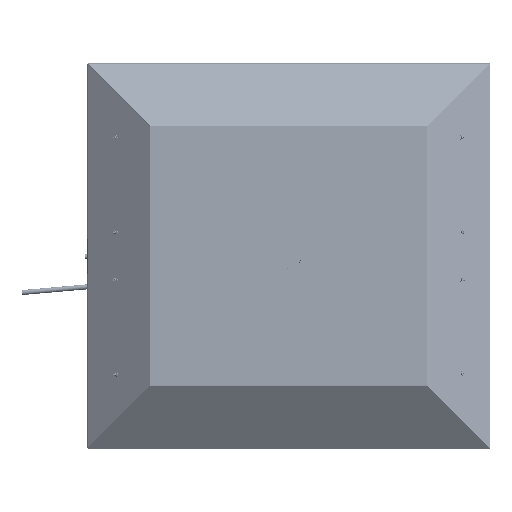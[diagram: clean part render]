
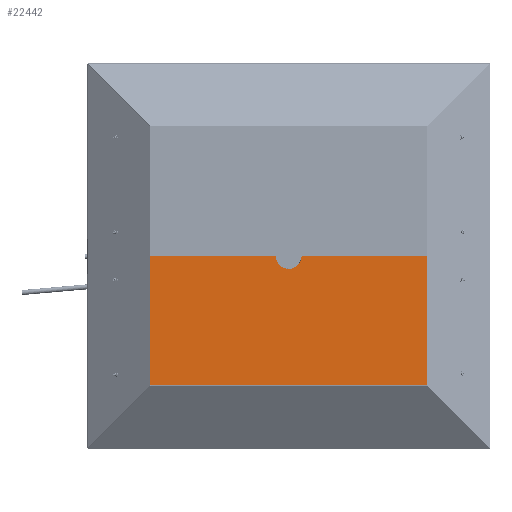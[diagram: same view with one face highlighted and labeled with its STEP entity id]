
A CAD part, top view. The second image highlights one B-rep face of the part: STEP entity #22442.
In plain terms, the highlighted planar face has unit normal (0, 0, 1) as drawn and (0, 1, 0) by its records, which use the part's own axes.
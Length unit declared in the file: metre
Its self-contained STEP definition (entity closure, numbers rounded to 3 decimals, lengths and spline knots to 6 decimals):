
#22442=ADVANCED_FACE('0:60298',(#41339),#41340,.T.);
#41339=FACE_OUTER_BOUND('',#75241,.T.);
#41340=PLANE('',#75242);
#75241=EDGE_LOOP('',(#121568,#121569,#121570,#121571,#121572,#121573,#121574,#121575,#121576,#121577,#121578));
#75242=AXIS2_PLACEMENT_3D('',#121579,#121580,#121581);
#121568=ORIENTED_EDGE('',*,*,#153343,.T.);
#121569=ORIENTED_EDGE('',*,*,#153347,.T.);
#121570=ORIENTED_EDGE('',*,*,#153339,.T.);
#121571=ORIENTED_EDGE('',*,*,#153366,.T.);
#121572=ORIENTED_EDGE('',*,*,#153367,.T.);
#121573=ORIENTED_EDGE('',*,*,#153368,.T.);
#121574=ORIENTED_EDGE('',*,*,#153369,.T.);
#121575=ORIENTED_EDGE('',*,*,#153370,.T.);
#121576=ORIENTED_EDGE('',*,*,#153371,.T.);
#121577=ORIENTED_EDGE('',*,*,#153372,.T.);
#121578=ORIENTED_EDGE('',*,*,#153356,.T.);
#121579=CARTESIAN_POINT('',(0.000124,0.258,-0.257069));
#121580=DIRECTION('',(-0.0,1.0,0.0));
#121581=DIRECTION('',(1.0,0.0,0.0));
#153339=EDGE_CURVE('0:60504',#192278,#192296,#192298,.F.);
#153343=EDGE_CURVE('0:60516',#192304,#192301,#192305,.T.);
#153347=EDGE_CURVE('0:60528',#192301,#192278,#192310,.T.);
#153356=EDGE_CURVE('0:60555',#192326,#192304,#192327,.F.);
#153366=EDGE_CURVE('0:60585',#192296,#192345,#192346,.F.);
#153367=EDGE_CURVE('0:60588',#192345,#192347,#192348,.T.);
#153368=EDGE_CURVE('0:60591',#192347,#192349,#192350,.T.);
#153369=EDGE_CURVE('0:60594',#192349,#192351,#192352,.F.);
#153370=EDGE_CURVE('0:60597',#192351,#192353,#192354,.T.);
#153371=EDGE_CURVE('0:60600',#192353,#192355,#192356,.T.);
#153372=EDGE_CURVE('0:60603',#192355,#192326,#192357,.F.);
#192278=VERTEX_POINT('',#240472);
#192296=VERTEX_POINT('',#240496);
#192298=LINE('',#240498,#240499);
#192301=VERTEX_POINT('',#240504);
#192304=VERTEX_POINT('',#240508);
#192305=CIRCLE('',#240509,0.0515);
#192310=CIRCLE('',#240515,0.0515);
#192326=VERTEX_POINT('',#240539);
#192327=LINE('',#240540,#240541);
#192345=VERTEX_POINT('',#240564);
#192346=LINE('',#240565,#240566);
#192347=VERTEX_POINT('',#240567);
#192348=LINE('',#240568,#240569);
#192349=VERTEX_POINT('',#240570);
#192350=LINE('',#240571,#240572);
#192351=VERTEX_POINT('',#240573);
#192352=LINE('',#240574,#240575);
#192353=VERTEX_POINT('',#240576);
#192354=LINE('',#240577,#240578);
#192355=VERTEX_POINT('',#240579);
#192356=LINE('',#240580,#240581);
#192357=LINE('',#240582,#240583);
#240472=CARTESIAN_POINT('',(-2.095375,0.258,0.01525));
#240496=CARTESIAN_POINT('',(-1.597335,0.258,0.01525));
#240498=CARTESIAN_POINT('',(-0.923376,0.258,0.01525));
#240499=VECTOR('',#273977,0.001);
#240504=CARTESIAN_POINT('',(-2.146876,0.258,-0.03625));
#240508=CARTESIAN_POINT('',(-2.198376,0.258,0.01525));
#240509=AXIS2_PLACEMENT_3D('',#273981,#273982,#273983);
#240515=AXIS2_PLACEMENT_3D('',#273991,#273992,#273993);
#240539=CARTESIAN_POINT('',(-2.696417,0.258,0.01525));
#240540=CARTESIAN_POINT('',(-1.223376,0.258,0.01525));
#240541=VECTOR('',#274002,0.001);
#240564=CARTESIAN_POINT('',(-1.597335,0.258,-0.498916));
#240565=CARTESIAN_POINT('',(-1.597335,0.258,-0.253201));
#240566=VECTOR('',#274020,0.001);
#240567=CARTESIAN_POINT('',(-1.59771,0.258,-0.498916));
#240568=CARTESIAN_POINT('',(-0.798376,0.258,-0.498916));
#240569=VECTOR('',#274021,0.001);
#240570=CARTESIAN_POINT('',(-1.59771,0.258,-0.499291));
#240571=CARTESIAN_POINT('',(-1.59771,0.258,-0.377993));
#240572=VECTOR('',#274022,0.001);
#240573=CARTESIAN_POINT('',(-2.696042,0.258,-0.499291));
#240574=CARTESIAN_POINT('',(-1.073376,0.258,-0.499291));
#240575=VECTOR('',#274023,0.001);
#240576=CARTESIAN_POINT('',(-2.696042,0.258,-0.498916));
#240577=CARTESIAN_POINT('',(-2.696042,0.258,-0.37841));
#240578=VECTOR('',#274024,0.001);
#240579=CARTESIAN_POINT('',(-2.696417,0.258,-0.498916));
#240580=CARTESIAN_POINT('',(-1.347959,0.258,-0.498916));
#240581=VECTOR('',#274025,0.001);
#240582=CARTESIAN_POINT('',(-2.696417,0.258,-0.253201));
#240583=VECTOR('',#274026,0.001);
#273977=DIRECTION('',(-1.0,0.0,0.0));
#273981=CARTESIAN_POINT('',(-2.146876,0.258,0.01525));
#273982=DIRECTION('',(0.0,-1.0,0.0));
#273983=DIRECTION('',(1.0,0.0,0.));
#273991=CARTESIAN_POINT('',(-2.146875,0.258,0.01525));
#273992=DIRECTION('',(-0.0,-1.0,-0.0));
#273993=DIRECTION('',(-1.0,0.0,0.0));
#274002=DIRECTION('',(-1.0,0.0,0.0));
#274020=DIRECTION('',(0.0,0.0,1.0));
#274021=DIRECTION('',(-1.0,0.0,0.0));
#274022=DIRECTION('',(0.0,0.0,-1.0));
#274023=DIRECTION('',(1.0,-0.0,0.0));
#274024=DIRECTION('',(-0.0,0.0,1.0));
#274025=DIRECTION('',(-1.0,0.0,0.0));
#274026=DIRECTION('',(0.0,0.0,-1.0));
